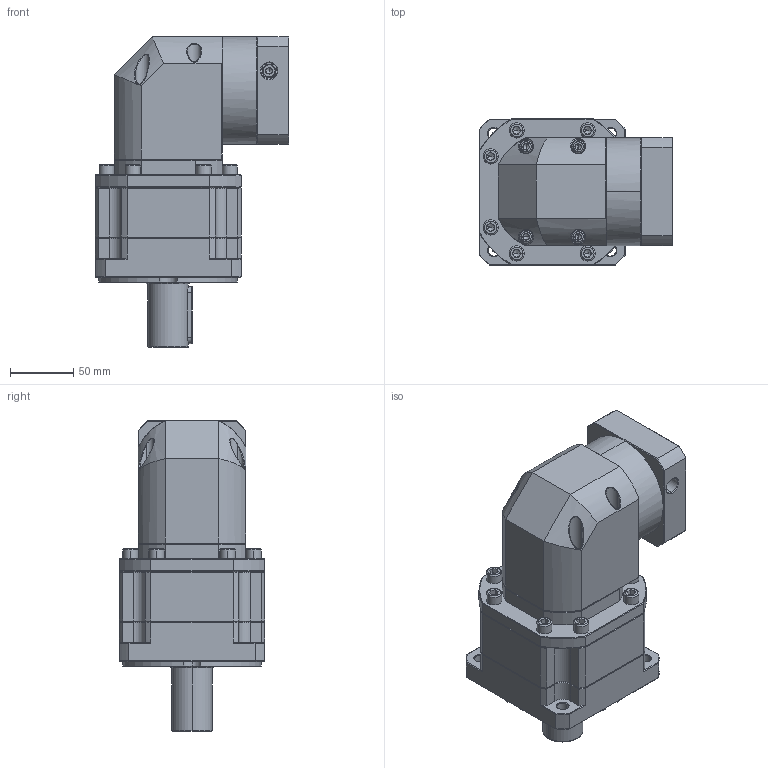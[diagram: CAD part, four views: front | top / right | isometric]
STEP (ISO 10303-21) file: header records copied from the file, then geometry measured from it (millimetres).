
FILE_DESCRIPTION (( 'STEP AP214' ), '1' );
FILE_NAME ('ZBR115A-D32-L2-P2-14-73-69.6X69.6-M6.step', '2023-08-26T13:34:14', ( '' ), ( '' ), 'SwSTEP 2.0', 'SolidWorks 2016', '' );
FILE_SCHEMA (( 'AUTOMOTIVE_DESIGN' ));
Length unit declared in the file: millimetre
Products named in the file (1): ZBR115A-D32-L2-P2-14-73-69.6X69.6-M6
Bounding box: 152.6 x 115 x 245 mm (x, y, z)
Volume: 1952607 mm3; surface area: 177678.4 mm2
Topology: 6 solids, 6 shells, 2594 faces, 6704 edges, 4219 vertices
Faces by surface type: plane 1281, cylinder 476, bspline 451, cone 372, torus 14
Entity records: 137161 total; most frequent: CARTESIAN_POINT 49272, ORIENTED_EDGE 13300, DIRECTION 10672, EDGE_CURVE 6650, VECTOR 4280, LINE 4280, VERTEX_POINT 4219, AXIS2_PLACEMENT_3D 3196
